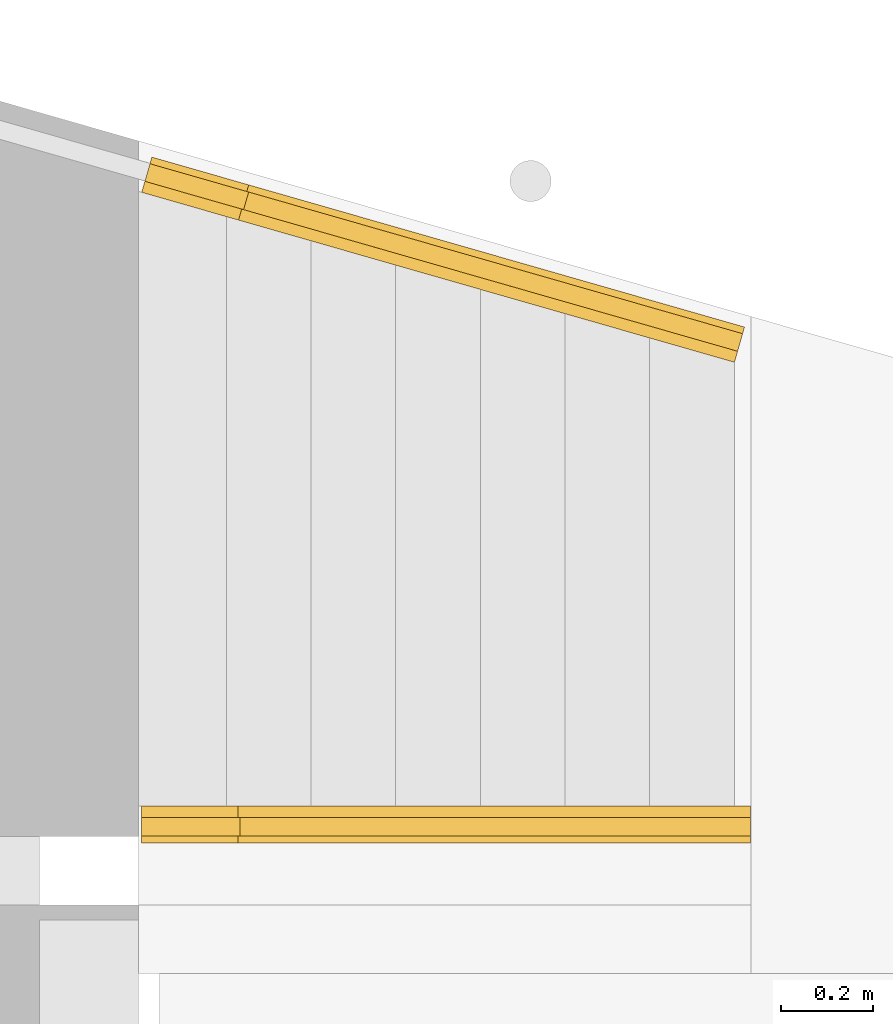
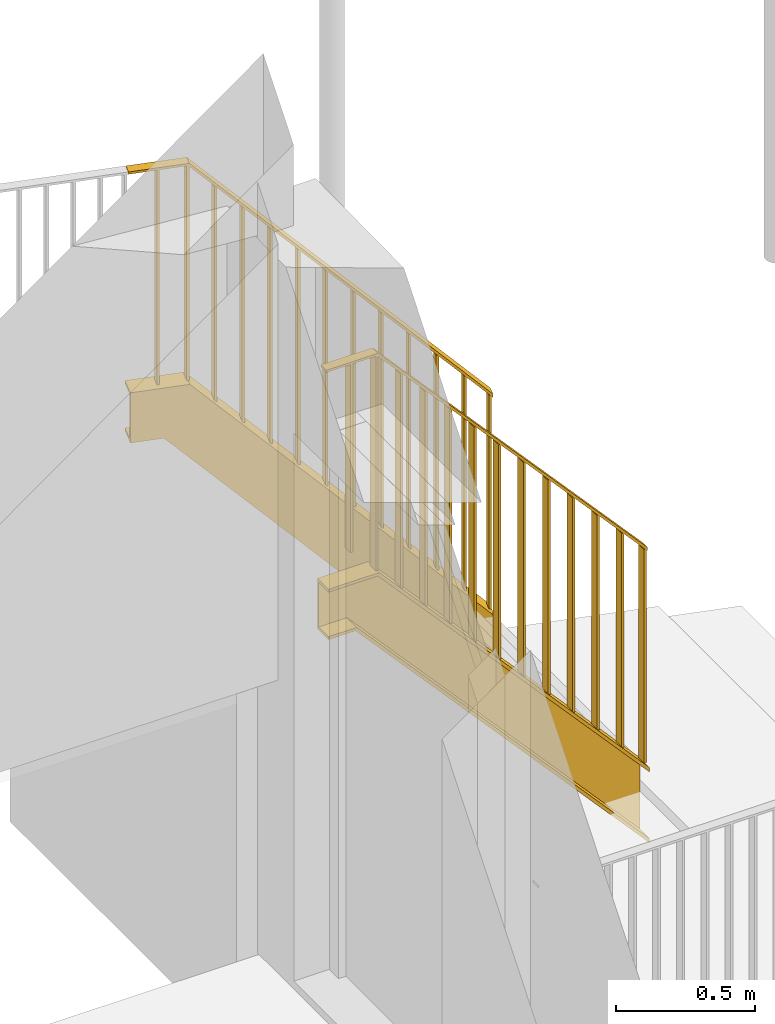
# One storey, part 8 of 9: 2 railings, 1 element without a shape of its own.
"""IFC2X3 building model written with IfcOpenShell, lengths in millimetres."""

from ifc_helpers import new_model, entity, si_unit, converted_unit, derived_unit, direction, frame, origin, place, context, subcontext, project, spatial, faceted_brep, material, element, aggregate, save


model = new_model("IFC2X3")

# Units and contexts
model_context = context("Model", 3, precision=0.01, world=origin(), true_north=direction((6.12303176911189e-17, 1.0)))
body_context = subcontext(model_context, "Body", "Model", "MODEL_VIEW")
ifc_project = project(units=[si_unit("LENGTHUNIT", "METRE", prefix="MILLI"), si_unit("AREAUNIT", "SQUARE_METRE"), si_unit("VOLUMEUNIT", "CUBIC_METRE"), converted_unit("PLANEANGLEUNIT", "DEGREE", entity("IfcRatioMeasure", 0.0174532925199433), si_unit("PLANEANGLEUNIT", "RADIAN"), dimensions=[0, 0, 0, 0, 0, 0, 0]), si_unit("MASSUNIT", "GRAM", prefix="KILO"), derived_unit("MASSDENSITYUNIT", [(si_unit("MASSUNIT", "GRAM", prefix="KILO"), 1), (si_unit("LENGTHUNIT", "METRE"), -3)]), si_unit("TIMEUNIT", "SECOND"), si_unit("FREQUENCYUNIT", "HERTZ"), si_unit("THERMODYNAMICTEMPERATUREUNIT", "DEGREE_CELSIUS"), derived_unit("THERMALTRANSMITTANCEUNIT", [(si_unit("MASSUNIT", "GRAM", prefix="KILO"), 1), (si_unit("THERMODYNAMICTEMPERATUREUNIT", "KELVIN"), -1), (si_unit("TIMEUNIT", "SECOND"), -3)]), derived_unit("VOLUMETRICFLOWRATEUNIT", [(si_unit("LENGTHUNIT", "METRE"), 3), (si_unit("TIMEUNIT", "SECOND"), -1)]), si_unit("ELECTRICCURRENTUNIT", "AMPERE"), si_unit("ELECTRICVOLTAGEUNIT", "VOLT"), si_unit("POWERUNIT", "WATT"), si_unit("FORCEUNIT", "NEWTON", prefix="KILO"), si_unit("ILLUMINANCEUNIT", "LUX"), si_unit("LUMINOUSFLUXUNIT", "LUMEN"), si_unit("LUMINOUSINTENSITYUNIT", "CANDELA"), derived_unit("USERDEFINED", [(si_unit("MASSUNIT", "GRAM", prefix="KILO"), -1), (si_unit("LENGTHUNIT", "METRE"), -2), (si_unit("TIMEUNIT", "SECOND"), 3), (si_unit("LUMINOUSFLUXUNIT", "LUMEN"), 1)]), derived_unit("LINEARVELOCITYUNIT", [(si_unit("LENGTHUNIT", "METRE"), 1), (si_unit("TIMEUNIT", "SECOND"), -1)]), si_unit("PRESSUREUNIT", "PASCAL"), derived_unit("USERDEFINED", [(si_unit("LENGTHUNIT", "METRE"), -2), (si_unit("MASSUNIT", "GRAM", prefix="KILO"), 1), (si_unit("TIMEUNIT", "SECOND"), -2)])], contexts=[model_context])

# Site, building, storey
site_placement = place(None, origin())
site = spatial("IfcSite", under=ifc_project, at=site_placement, Name="<Kadaster Gemeente>;<Kadaster nummer>;<Kadaster sectie>", CompositionType="ELEMENT")
building_placement = place(site_placement, origin())
building = spatial("IfcBuilding", under=site, at=building_placement, Name="JRCZ Middelburg", CompositionType="ELEMENT")
storey_placement = place(building_placement, frame((0.0, 0.0, 3700.0)))
storey = spatial("IfcBuildingStorey", under=building, at=storey_placement, Name="02 tweede verdieping", CompositionType="ELEMENT", Elevation=3700.0)

# Stair, railings
stair_placement = place(storey_placement, origin())
stair = element("IfcStair", 1, at=stair_placement, inside=storey, Name="Assembled Stair:Stair", ObjectType="Assembled Stair:RBM_24_ST_stalen vluchttrap", ShapeType="NOTDEFINED")
ifc_material = material(Name="h2_staal_gen")
railing_1_placement = place(stair_placement, frame((17423.4210859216, 25585.7383095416, -186.28864638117)))
railing_1 = element("IfcRailing", 2, at=railing_1_placement, material=ifc_material, Name="Railing:NLRS_90_RA_LB_hekwerk spijlen staal +trapboom", ObjectType="Railing:NLRS_90_RA_LB_hekwerk spijlen staal +trapboom", PredefinedType="NOTDEFINED", context=body_context, shape_type="Brep", body=[
    faceted_brep([(117.041416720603, 363.745262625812, 2467.66279337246), (128.066965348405, 402.195714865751, 2467.66279337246), (118.454352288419, 404.9521020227, 2467.66279337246), (107.428803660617, 366.501649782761, 2467.66279337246), (117.041416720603, 363.745262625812, 1527.66279337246), (107.428803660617, 366.501649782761, 1527.66279337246), (118.454352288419, 404.9521020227, 1527.66279337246), (128.066965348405, 402.195714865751, 1527.66279337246)], [[[0, 1, 2, 3]], [[4, 5, 6, 7]], [[3, 5, 4, 0]], [[2, 6, 5, 3]], [[1, 7, 6, 2]], [[0, 4, 7, 1]]]),
    faceted_brep([(321.282206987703, 305.179845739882, 2358.068173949), (332.307755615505, 343.630297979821, 2358.068173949), (322.69514255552, 346.38668513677, 2358.068173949), (311.669593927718, 307.936232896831, 2358.068173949), (321.282206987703, 305.179845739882, 1418.06817394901), (311.669593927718, 307.936232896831, 1418.06817394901), (322.69514255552, 346.38668513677, 1418.06817394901), (332.307755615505, 343.630297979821, 1418.06817394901)], [[[0, 1, 2, 3]], [[4, 5, 6, 7]], [[3, 5, 4, 0]], [[2, 6, 5, 3]], [[1, 7, 6, 2]], [[0, 4, 7, 1]]]),
    faceted_brep([(419.784253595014, 276.934687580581, 2248.47355452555), (430.809802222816, 315.38513982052, 2248.47355452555), (421.19718916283, 318.141526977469, 2248.47355452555), (410.171640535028, 279.69107473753, 2248.47355452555), (419.784253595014, 276.934687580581, 1308.47355452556), (410.171640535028, 279.69107473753, 1308.47355452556), (421.19718916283, 318.141526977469, 1308.47355452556), (430.809802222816, 315.38513982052, 1308.47355452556)], [[[0, 1, 2, 3]], [[4, 5, 6, 7]], [[3, 5, 4, 0]], [[2, 6, 5, 3]], [[1, 7, 6, 2]], [[0, 4, 7, 1]]]),
    faceted_brep([(518.286300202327, 248.68952942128, 2138.8789351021), (529.311848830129, 287.139981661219, 2138.8789351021), (519.699235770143, 289.896368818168, 2138.8789351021), (508.673687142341, 251.445916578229, 2138.8789351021), (518.286300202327, 248.68952942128, 1198.8789351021), (508.673687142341, 251.445916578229, 1198.8789351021), (519.699235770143, 289.896368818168, 1198.8789351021), (529.311848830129, 287.139981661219, 1198.8789351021)], [[[0, 1, 2, 3]], [[4, 5, 6, 7]], [[3, 5, 4, 0]], [[2, 6, 5, 3]], [[1, 7, 6, 2]], [[0, 4, 7, 1]]]),
    faceted_brep([(616.788346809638, 220.444371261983, 2029.28431567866), (627.81389543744, 258.894823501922, 2029.28431567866), (618.201282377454, 261.651210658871, 2029.28431567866), (607.175733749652, 223.200758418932, 2029.28431567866), (616.788346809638, 220.444371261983, 1089.28431567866), (607.175733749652, 223.200758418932, 1089.28431567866), (618.201282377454, 261.651210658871, 1089.28431567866), (627.81389543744, 258.894823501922, 1089.28431567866)], [[[0, 1, 2, 3]], [[4, 5, 6, 7]], [[3, 5, 4, 0]], [[2, 6, 5, 3]], [[1, 7, 6, 2]], [[0, 4, 7, 1]]]),
    faceted_brep([(715.290393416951, 192.199213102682, 1919.6896962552), (726.315942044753, 230.64966534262, 1919.6896962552), (716.703328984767, 233.406052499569, 1919.6896962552), (705.677780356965, 194.95560025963, 1919.6896962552), (715.290393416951, 192.199213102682, 979.689696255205), (705.677780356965, 194.95560025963, 979.689696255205), (716.703328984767, 233.406052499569, 979.689696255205), (726.315942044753, 230.64966534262, 979.689696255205)], [[[0, 1, 2, 3]], [[4, 5, 6, 7]], [[3, 5, 4, 0]], [[2, 6, 5, 3]], [[1, 7, 6, 2]], [[0, 4, 7, 1]]]),
    faceted_brep([(813.792440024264, 163.95405494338, 1810.09507683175), (824.817988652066, 202.404507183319, 1810.09507683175), (815.20537559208, 205.160894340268, 1810.09507683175), (804.179826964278, 166.710442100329, 1810.09507683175), (813.792440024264, 163.95405494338, 870.095076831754), (804.179826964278, 166.710442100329, 870.095076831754), (815.20537559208, 205.160894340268, 870.095076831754), (824.817988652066, 202.404507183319, 870.095076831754)], [[[0, 1, 2, 3]], [[4, 5, 6, 7]], [[3, 5, 4, 0]], [[2, 6, 5, 3]], [[1, 7, 6, 2]], [[0, 4, 7, 1]]]),
    faceted_brep([(912.294486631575, 135.708896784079, 1700.5004574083), (923.320035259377, 174.159349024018, 1700.5004574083), (913.707422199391, 176.915736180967, 1700.5004574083), (902.681873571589, 138.465283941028, 1700.5004574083), (912.294486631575, 135.708896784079, 760.500457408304), (902.681873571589, 138.465283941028, 760.500457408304), (913.707422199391, 176.915736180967, 760.500457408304), (923.320035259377, 174.159349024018, 760.500457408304)], [[[0, 1, 2, 3]], [[4, 5, 6, 7]], [[3, 5, 4, 0]], [[2, 6, 5, 3]], [[1, 7, 6, 2]], [[0, 4, 7, 1]]]),
    faceted_brep([(1010.79653323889, 107.463738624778, 1590.90583798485), (1021.82208186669, 145.914190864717, 1590.90583798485), (1012.2094688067, 148.670578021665, 1590.90583798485), (1001.1839201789, 110.220125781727, 1590.90583798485), (1010.79653323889, 107.463738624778, 650.905837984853), (1001.1839201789, 110.220125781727, 650.905837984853), (1012.2094688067, 148.670578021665, 650.905837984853), (1021.82208186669, 145.914190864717, 650.905837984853)], [[[0, 1, 2, 3]], [[4, 5, 6, 7]], [[3, 5, 4, 0]], [[2, 6, 5, 3]], [[1, 7, 6, 2]], [[0, 4, 7, 1]]]),
    faceted_brep([(1109.2985798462, 79.2185804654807, 1481.3112185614), (1120.324128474, 117.66903270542, 1481.3112185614), (1110.71151541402, 120.425419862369, 1481.3112185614), (1099.68596678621, 81.9749676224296, 1481.3112185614), (1109.2985798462, 79.2185804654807, 541.311218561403), (1099.68596678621, 81.9749676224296, 541.311218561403), (1110.71151541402, 120.425419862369, 541.311218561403), (1120.324128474, 117.66903270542, 541.311218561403)], [[[0, 1, 2, 3]], [[4, 5, 6, 7]], [[3, 5, 4, 0]], [[2, 6, 5, 3]], [[1, 7, 6, 2]], [[0, 4, 7, 1]]]),
    faceted_brep([(1207.80062645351, 50.9734223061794, 1371.71659913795), (1218.82617508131, 89.4238745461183, 1371.71659913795), (1209.21356202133, 92.1802617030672, 1371.71659913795), (1198.18801339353, 53.7298094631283, 1371.71659913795), (1207.80062645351, 50.9734223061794, 431.716599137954), (1198.18801339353, 53.7298094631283, 431.716599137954), (1209.21356202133, 92.1802617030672, 431.716599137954), (1218.82617508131, 89.4238745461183, 431.716599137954)], [[[0, 1, 2, 3]], [[4, 5, 6, 7]], [[3, 5, 4, 0]], [[2, 6, 5, 3]], [[1, 7, 6, 2]], [[0, 4, 7, 1]]]),
    faceted_brep([(222.78016038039, 333.425003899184, 2467.66279337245), (233.805709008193, 371.875456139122, 2467.66279337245), (224.193095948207, 374.631843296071, 2467.66279337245), (213.167547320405, 336.181391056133, 2467.66279337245), (222.78016038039, 333.425003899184, 1527.66279337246), (213.167547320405, 336.181391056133, 1527.66279337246), (224.193095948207, 374.631843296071, 1527.66279337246), (233.805709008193, 371.875456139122, 1527.66279337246)], [[[0, 1, 2, 3]], [[4, 5, 6, 7]], [[3, 5, 4, 0]], [[2, 6, 5, 3]], [[1, 7, 6, 2]], [[0, 4, 7, 1]]]),
    faceted_brep([(1296.69006000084, 25.4846513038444, 1272.8170942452), (1307.71560862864, 63.9351035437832, 1272.8170942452), (1298.10299556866, 66.6914907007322, 1272.8170942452), (1287.07744694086, 28.2410384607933, 1272.8170942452), (1296.69006000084, 25.4846513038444, 337.817094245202), (1287.07744694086, 28.2410384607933, 337.817094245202), (1298.10299556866, 66.6914907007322, 337.817094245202), (1307.71560862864, 63.9351035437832, 337.817094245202)], [[[0, 1, 2, 3]], [[4, 5, 6, 7]], [[3, 5, 4, 0]], [[2, 6, 5, 3]], [[1, 7, 6, 2]], [[0, 4, 7, 1]]]),
    faceted_brep([(1301.89096789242, 24.0315326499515, 1262.12197971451), (1312.91651652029, 62.4819848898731, 1262.12197971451), (1312.91651652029, 62.4819848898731, 1276.76388788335), (1301.89096789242, 24.0315326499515, 1276.76388788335), (218.368455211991, 334.728272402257, 2467.66279337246), (222.540534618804, 333.531941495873, 2477.66279337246), (233.566083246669, 371.982393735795, 2477.66279337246), (229.394003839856, 373.178724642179, 2467.66279337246)], [[[0, 1, 2, 3]], [[4, 5, 6, 7]], [[0, 3, 5, 4]], [[3, 2, 6, 5]], [[2, 1, 7, 6]], [[1, 0, 4, 7]]]),
    faceted_brep([(1295.0, 0.0, 0.0), (1317.05109725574, 76.9009044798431, 0.0), (1317.05109725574, 76.9009044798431, 18.3023852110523), (1297.48074844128, 8.65135175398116, 18.3023852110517), (1297.48074844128, 8.65135175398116, 303.819594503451), (1317.05109725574, 76.9009044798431, 303.819594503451), (1317.05109725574, 76.9009044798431, 322.121979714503), (1295.0, 0.0, 322.121979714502), (119.691740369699, 337.016019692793, 1307.66279337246), (211.477487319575, 310.696739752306, 1527.66279337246), (233.528584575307, 387.597644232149, 1527.66279337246), (228.313485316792, 389.093057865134, 1515.16279337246), (208.743136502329, 320.843505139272, 1515.16279337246), (127.387588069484, 344.171957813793, 1320.16279337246), (146.957936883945, 412.421510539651, 1320.16279337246), (141.742837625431, 413.916924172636, 1307.66279337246)], [[[0, 1, 2, 3, 4, 5, 6, 7]], [[8, 9, 10, 11, 12, 13, 14, 15]], [[0, 7, 9, 8]], [[7, 6, 10, 9]], [[6, 5, 11, 10]], [[5, 4, 12, 11]], [[4, 3, 13, 12]], [[3, 2, 14, 13]], [[2, 1, 15, 14]], [[1, 0, 8, 15]]]),
    faceted_brep([(218.368455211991, 334.728272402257, 2467.66279337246), (229.394003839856, 373.178724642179, 2467.66279337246), (233.566083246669, 371.982393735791, 2477.66279337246), (222.540534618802, 333.531941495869, 2477.66279337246), (6.8909678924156, 395.368789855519, 2467.66279337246), (6.8909678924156, 395.368789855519, 2477.66279337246), (17.9165165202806, 433.81924209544, 2477.66279337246), (17.9165165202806, 433.81924209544, 2467.66279337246)], [[[0, 1, 2, 3]], [[4, 5, 6, 7]], [[1, 0, 4, 7]], [[2, 1, 7, 6]], [[3, 2, 6, 5]], [[0, 3, 5, 4]]]),
    faceted_brep([(119.691740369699, 337.016019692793, 1307.66279337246), (141.742837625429, 413.916924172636, 1307.66279337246), (146.957936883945, 412.421510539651, 1320.16279337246), (127.387588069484, 344.171957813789, 1320.16279337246), (208.743136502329, 320.843505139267, 1515.16279337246), (228.31348531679, 389.093057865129, 1515.16279337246), (233.528584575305, 387.597644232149, 1527.66279337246), (211.477487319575, 310.696739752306, 1527.66279337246), (0.0, 371.337257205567, 1307.66279337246), (0.0, 371.337257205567, 1527.66279337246), (22.0510972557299, 448.23816168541, 1527.66279337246), (22.0510972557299, 448.23816168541, 1515.16279337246), (2.48074844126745, 379.988608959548, 1515.16279337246), (2.48074844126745, 379.988608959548, 1320.16279337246), (22.0510972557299, 448.23816168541, 1320.16279337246), (22.0510972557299, 448.23816168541, 1307.66279337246)], [[[0, 1, 2, 3, 4, 5, 6, 7]], [[8, 9, 10, 11, 12, 13, 14, 15]], [[1, 0, 8, 15]], [[2, 1, 15, 14]], [[3, 2, 14, 13]], [[4, 3, 13, 12]], [[5, 4, 12, 11]], [[6, 5, 11, 10]], [[7, 6, 10, 9]], [[0, 7, 9, 8]]]),
])
railing_2_placement = place(stair_placement, frame((17423.3108304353, 24535.6, -232.22008049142)))
railing_2 = element("IfcRailing", 3, at=railing_2_placement, material=ifc_material, Name="Railing:NLRS_90_RA_LB_hekwerk spijlen staal +trapboom", ObjectType="Railing:NLRS_90_RA_LB_hekwerk spijlen staal +trapboom", PredefinedType="NOTDEFINED", context=body_context, shape_type="Brep", body=[
    faceted_brep([(109.60003272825, 55.0367448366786, 2515.23809850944), (99.6000327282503, 55.0367448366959, 2515.23809850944), (99.6000327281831, 15.0367448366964, 2515.23809850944), (109.600032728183, 15.036744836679, 2515.23809850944), (109.60003272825, 55.0367448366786, 1692.06242283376), (109.600032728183, 15.036744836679, 1692.06242283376), (99.6000327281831, 15.0367448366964, 1692.06242283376), (99.6000327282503, 55.0367448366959, 1692.06242283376)], [[[0, 1, 2, 3]], [[4, 5, 6, 7]], [[1, 0, 4, 7]], [[2, 1, 7, 6]], [[3, 2, 6, 5]], [[0, 3, 5, 4]]]),
    faceted_brep([(316.418214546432, 55.0367448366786, 2401.95390522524), (306.418214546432, 55.0367448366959, 2401.95390522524), (306.418214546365, 15.0367448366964, 2401.95390522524), (316.418214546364, 15.036744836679, 2401.95390522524), (316.418214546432, 55.0367448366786, 1461.95390522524), (316.418214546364, 15.036744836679, 1461.95390522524), (306.418214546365, 15.0367448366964, 1461.95390522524), (306.418214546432, 55.0367448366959, 1461.95390522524)], [[[0, 1, 2, 3]], [[4, 5, 6, 7]], [[1, 0, 4, 7]], [[2, 1, 7, 6]], [[3, 2, 6, 5]], [[0, 3, 5, 4]]]),
    faceted_brep([(418.236396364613, 55.0367448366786, 2288.66971194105), (408.236396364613, 55.0367448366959, 2288.66971194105), (408.236396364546, 15.0367448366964, 2288.66971194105), (418.236396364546, 15.036744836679, 2288.66971194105), (418.236396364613, 55.0367448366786, 1348.66971194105), (418.236396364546, 15.036744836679, 1348.66971194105), (408.236396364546, 15.0367448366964, 1348.66971194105), (408.236396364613, 55.0367448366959, 1348.66971194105)], [[[0, 1, 2, 3]], [[4, 5, 6, 7]], [[1, 0, 4, 7]], [[2, 1, 7, 6]], [[3, 2, 6, 5]], [[0, 3, 5, 4]]]),
    faceted_brep([(520.054578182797, 55.0367448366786, 2175.38551865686), (510.054578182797, 55.0367448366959, 2175.38551865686), (510.05457818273, 15.0367448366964, 2175.38551865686), (520.05457818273, 15.036744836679, 2175.38551865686), (520.054578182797, 55.0367448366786, 1235.38551865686), (520.05457818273, 15.036744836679, 1235.38551865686), (510.05457818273, 15.0367448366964, 1235.38551865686), (510.054578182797, 55.0367448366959, 1235.38551865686)], [[[0, 1, 2, 3]], [[4, 5, 6, 7]], [[1, 0, 4, 7]], [[2, 1, 7, 6]], [[3, 2, 6, 5]], [[0, 3, 5, 4]]]),
    faceted_brep([(621.872760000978, 55.0367448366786, 2062.10132537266), (611.872760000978, 55.0367448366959, 2062.10132537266), (611.872760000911, 15.0367448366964, 2062.10132537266), (621.872760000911, 15.036744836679, 2062.10132537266), (621.872760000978, 55.0367448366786, 1122.10132537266), (621.872760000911, 15.036744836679, 1122.10132537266), (611.872760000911, 15.0367448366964, 1122.10132537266), (611.872760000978, 55.0367448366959, 1122.10132537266)], [[[0, 1, 2, 3]], [[4, 5, 6, 7]], [[1, 0, 4, 7]], [[2, 1, 7, 6]], [[3, 2, 6, 5]], [[0, 3, 5, 4]]]),
    faceted_brep([(723.69094181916, 55.0367448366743, 1948.81713208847), (713.69094181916, 55.0367448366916, 1948.81713208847), (713.690941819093, 15.036744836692, 1948.81713208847), (723.690941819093, 15.0367448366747, 1948.81713208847), (723.69094181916, 55.0367448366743, 1008.81713208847), (723.690941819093, 15.0367448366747, 1008.81713208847), (713.690941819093, 15.036744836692, 1008.81713208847), (713.69094181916, 55.0367448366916, 1008.81713208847)], [[[0, 1, 2, 3]], [[4, 5, 6, 7]], [[1, 0, 4, 7]], [[2, 1, 7, 6]], [[3, 2, 6, 5]], [[0, 3, 5, 4]]]),
    faceted_brep([(825.509123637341, 55.0367448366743, 1835.53293880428), (815.509123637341, 55.0367448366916, 1835.53293880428), (815.509123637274, 15.036744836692, 1835.53293880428), (825.509123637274, 15.0367448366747, 1835.53293880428), (825.509123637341, 55.0367448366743, 895.53293880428), (825.509123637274, 15.0367448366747, 895.53293880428), (815.509123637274, 15.036744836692, 895.53293880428), (815.509123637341, 55.0367448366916, 895.53293880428)], [[[0, 1, 2, 3]], [[4, 5, 6, 7]], [[1, 0, 4, 7]], [[2, 1, 7, 6]], [[3, 2, 6, 5]], [[0, 3, 5, 4]]]),
    faceted_brep([(927.327305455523, 55.0367448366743, 1722.24874552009), (917.327305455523, 55.0367448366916, 1722.24874552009), (917.327305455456, 15.036744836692, 1722.24874552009), (927.327305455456, 15.0367448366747, 1722.24874552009), (927.327305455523, 55.0367448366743, 782.248745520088), (927.327305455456, 15.0367448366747, 782.248745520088), (917.327305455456, 15.036744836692, 782.248745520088), (917.327305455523, 55.0367448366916, 782.248745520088)], [[[0, 1, 2, 3]], [[4, 5, 6, 7]], [[1, 0, 4, 7]], [[2, 1, 7, 6]], [[3, 2, 6, 5]], [[0, 3, 5, 4]]]),
    faceted_brep([(1029.1454872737, 55.0367448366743, 1608.9645522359), (1019.1454872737, 55.0367448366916, 1608.9645522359), (1019.14548727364, 15.036744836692, 1608.9645522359), (1029.14548727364, 15.0367448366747, 1608.9645522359), (1029.1454872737, 55.0367448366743, 668.964552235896), (1029.14548727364, 15.0367448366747, 668.964552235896), (1019.14548727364, 15.036744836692, 668.964552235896), (1019.1454872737, 55.0367448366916, 668.964552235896)], [[[0, 1, 2, 3]], [[4, 5, 6, 7]], [[1, 0, 4, 7]], [[2, 1, 7, 6]], [[3, 2, 6, 5]], [[0, 3, 5, 4]]]),
    faceted_brep([(1130.96366909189, 55.0367448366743, 1495.6803589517), (1120.96366909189, 55.0367448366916, 1495.6803589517), (1120.96366909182, 15.036744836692, 1495.6803589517), (1130.96366909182, 15.0367448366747, 1495.6803589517), (1130.96366909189, 55.0367448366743, 555.680358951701), (1130.96366909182, 15.0367448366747, 555.680358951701), (1120.96366909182, 15.036744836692, 555.680358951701), (1120.96366909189, 55.0367448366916, 555.680358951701)], [[[0, 1, 2, 3]], [[4, 5, 6, 7]], [[1, 0, 4, 7]], [[2, 1, 7, 6]], [[3, 2, 6, 5]], [[0, 3, 5, 4]]]),
    faceted_brep([(1232.78185091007, 55.0367448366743, 1382.39616566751), (1222.78185091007, 55.0367448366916, 1382.39616566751), (1222.78185091, 15.036744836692, 1382.39616566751), (1232.78185091, 15.0367448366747, 1382.39616566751), (1232.78185091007, 55.0367448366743, 442.396165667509), (1232.78185091, 15.0367448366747, 442.396165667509), (1222.78185091, 15.036744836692, 442.396165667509), (1222.78185091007, 55.0367448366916, 442.396165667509)], [[[0, 1, 2, 3]], [[4, 5, 6, 7]], [[1, 0, 4, 7]], [[2, 1, 7, 6]], [[3, 2, 6, 5]], [[0, 3, 5, 4]]]),
    faceted_brep([(214.60003272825, 55.0367448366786, 2515.23809850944), (204.60003272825, 55.0367448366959, 2515.23809850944), (204.600032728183, 15.0367448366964, 2515.23809850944), (214.600032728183, 15.036744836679, 2515.23809850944), (214.60003272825, 55.0367448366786, 1575.23809850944), (214.600032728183, 15.036744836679, 1575.23809850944), (204.600032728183, 15.0367448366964, 1575.23809850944), (204.60003272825, 55.0367448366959, 1575.23809850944)], [[[0, 1, 2, 3]], [[4, 5, 6, 7]], [[1, 0, 4, 7]], [[2, 1, 7, 6]], [[3, 2, 6, 5]], [[0, 3, 5, 4]]]),
    faceted_brep([(1324.60003272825, 55.0367448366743, 1280.23809850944), (1314.60003272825, 55.0367448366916, 1280.23809850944), (1314.60003272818, 15.036744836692, 1280.23809850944), (1324.60003272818, 15.0367448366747, 1280.23809850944), (1324.60003272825, 55.0367448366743, 345.238098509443), (1324.60003272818, 15.0367448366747, 345.238098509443), (1314.60003272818, 15.036744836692, 345.238098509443), (1314.60003272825, 55.0367448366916, 345.238098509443)], [[[0, 1, 2, 3]], [[4, 5, 6, 7]], [[1, 0, 4, 7]], [[2, 1, 7, 6]], [[3, 2, 6, 5]], [[0, 3, 5, 4]]]),
    faceted_brep([(1330.0, 55.0, 1269.11197238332), (1330.0, 55.0, 1284.07160749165), (1330.0, 15.0, 1284.07160749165), (1330.0, 15.0, 1269.11197238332), (210.0, 55.0, 2515.23809850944), (210.0, 15.0, 2515.23809850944), (214.457647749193, 15.0, 2525.23809850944), (214.457647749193, 55.0, 2525.23809850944)], [[[0, 1, 2, 3]], [[4, 5, 6, 7]], [[2, 1, 7, 6]], [[1, 0, 4, 7]], [[0, 3, 5, 4]], [[3, 2, 6, 5]]]),
    faceted_brep([(1330.0, 80.0, 0.0), (1330.0, 80.0, 329.111972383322), (1330.0, 0.0, 329.111972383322), (1330.0, 0.0, 310.412428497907), (1330.0, 71.0, 310.412428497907), (1330.0, 71.0, 18.6995438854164), (1330.0, 0.0, 18.6995438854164), (1330.0, 0.0, 0.0), (111.931749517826, 80.0, 1355.23809850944), (111.931749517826, 0.0, 1355.23809850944), (117.503809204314, 0.0, 1367.73809850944), (117.503809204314, 71.0, 1367.73809850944), (204.427940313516, 71.0, 1562.73809850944), (204.427940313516, 0.0, 1562.73809850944), (210.0, 0.0, 1575.23809850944), (210.0, 80.0, 1575.23809850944)], [[[0, 1, 2, 3, 4, 5, 6, 7]], [[8, 9, 10, 11, 12, 13, 14, 15]], [[1, 0, 8, 15]], [[2, 1, 15, 14]], [[3, 2, 14, 13]], [[4, 3, 13, 12]], [[5, 4, 12, 11]], [[6, 5, 11, 10]], [[7, 6, 10, 9]], [[0, 7, 9, 8]]]),
    faceted_brep([(210.0, 55.0, 2515.23809850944), (214.457647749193, 55.0, 2525.23809850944), (214.457647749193, 15.0, 2525.23809850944), (210.0, 15.0, 2515.23809850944), (0.0, 55.0, 2515.23809850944), (0.0, 15.0, 2515.23809850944), (0.0, 15.0, 2525.23809850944), (0.0, 55.0, 2525.23809850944)], [[[0, 1, 2, 3]], [[4, 5, 6, 7]], [[1, 0, 4, 7]], [[2, 1, 7, 6]], [[3, 2, 6, 5]], [[0, 3, 5, 4]]]),
    faceted_brep([(111.931749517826, 80.0, 1355.23809850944), (210.0, 80.0, 1575.23809850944), (210.0, 0.0, 1575.23809850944), (204.427940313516, 0.0, 1562.73809850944), (204.427940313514, 71.0, 1562.73809850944), (117.503809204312, 71.0, 1367.73809850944), (117.503809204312, 0.0, 1367.73809850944), (111.931749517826, 0.0, 1355.23809850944), (0.0, 80.0, 1355.23809850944), (0.0, 0.0, 1355.23809850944), (0.0, 0.0, 1367.73809850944), (0.0, 71.0, 1367.73809850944), (0.0, 71.0, 1562.73809850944), (0.0, 0.0, 1562.73809850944), (0.0, 0.0, 1575.23809850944), (0.0, 80.0, 1575.23809850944)], [[[0, 1, 2, 3, 4, 5, 6, 7]], [[8, 9, 10, 11, 12, 13, 14, 15]], [[1, 0, 8, 15]], [[2, 1, 15, 14]], [[3, 2, 14, 13]], [[4, 3, 13, 12]], [[5, 4, 12, 11]], [[6, 5, 11, 10]], [[7, 6, 10, 9]], [[0, 7, 9, 8]]]),
])
aggregate(stair, [railing_1, railing_2])

save(model, "model.ifc")
